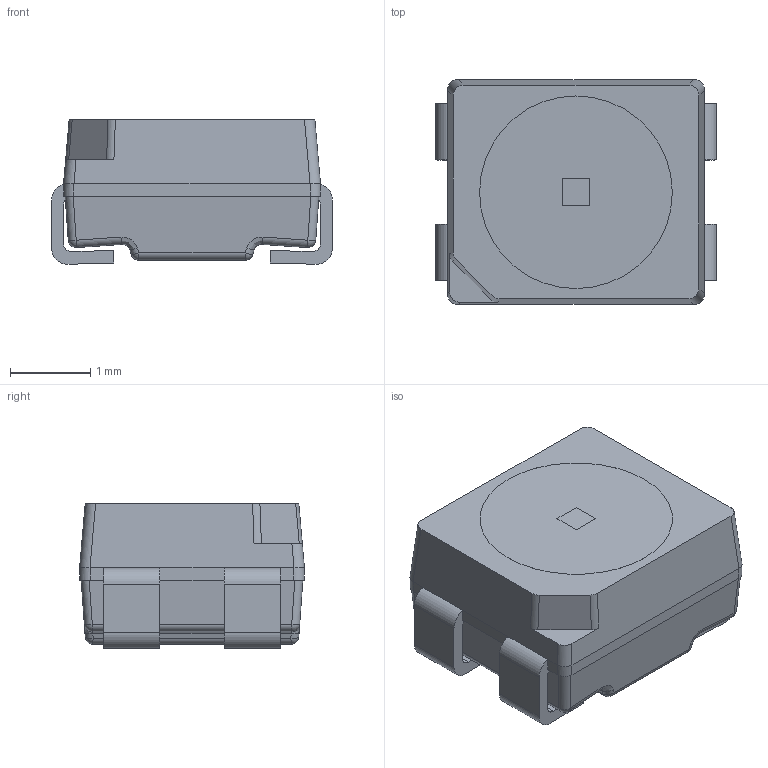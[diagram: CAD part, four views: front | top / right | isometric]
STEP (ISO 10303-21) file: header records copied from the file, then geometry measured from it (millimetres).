
FILE_DESCRIPTION (( 'STEP AP214' ), '1' );
FILE_NAME ('LDB.STEP', '2025-03-23T07:56:52', ( '' ), ( '' ), 'SwSTEP 2.0', 'SolidWorks 2022', '' );
FILE_SCHEMA (( 'AUTOMOTIVE_DESIGN' ));
Length unit declared in the file: millimetre
Products named in the file (1): LDB
Bounding box: 3.5 x 2.8 x 1.8 mm (x, y, z)
Volume: 14.5 mm3; surface area: 72.9 mm2
Topology: 3 solids, 3 shells, 398 faces, 1113 edges, 721 vertices
Faces by surface type: plane 191, cylinder 188, sphere 9, bspline 4, torus 4, cone 2
Entity records: 17496 total; most frequent: CARTESIAN_POINT 2621, ORIENTED_EDGE 2226, DIRECTION 2225, EDGE_CURVE 1113, AXIS2_PLACEMENT_3D 753, VERTEX_POINT 721, VECTOR 719, LINE 719
